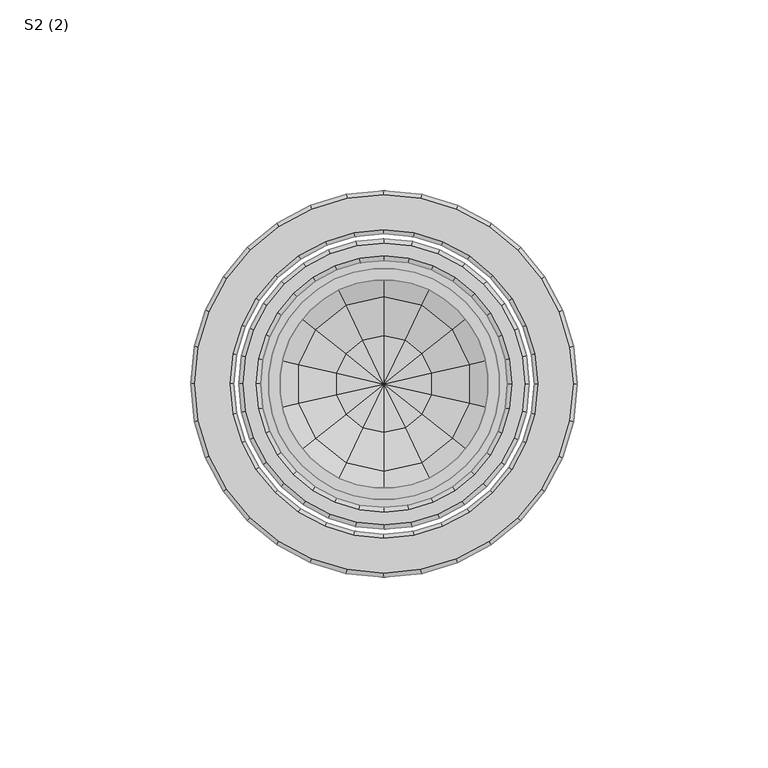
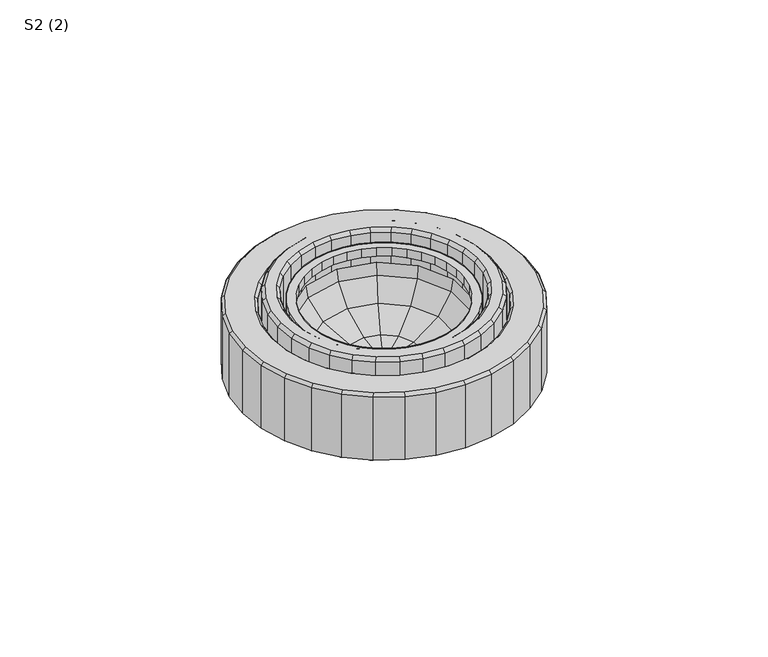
"""IFC4 building model written with IfcOpenShell, lengths in millimetres: light fixture geometry, S2 (2) : نور وابسته به سطح مخروط."""

from ifc_helpers import new_model, si_unit, origin, place, context, project, spatial, triangles, source, transform, mapped, element, save


def s2_2_4e384665(model_context):
    return source(origin(), model_context, "Body", "Tessellation", [
        triangles([(30.2889727, 2.6496484, 15.3348614), (30.2889727, -1e-07, 15.3348614), (30.2889727, -1e-07, 18.4576673), (30.2889727, 2.6496484, 18.4576673), (29.3681484, 7.868873, 15.3348614), (29.3681484, 7.868873, 18.4576673), (27.5556137, 12.8478824, 15.3348614), (27.5556137, 12.8478824, 18.4576673), (24.9023263, 17.4374519, 15.3348614), (24.9023263, 17.4374519, 18.4576673), (21.5029146, 21.4956378, 15.3348614), (21.5029146, 21.4956378, 18.4576673), (17.4410903, 24.9023263, 15.3348614), (17.4410903, 24.9023263, 18.4576673), (12.8515217, 27.551977, 15.3348614), (12.8515217, 27.551977, 18.4576673), (7.8725114, 29.36451, 15.3348614), (7.8725114, 29.36451, 18.4576673), (2.6532866, 30.2853343, 15.3348614), (2.6532866, 30.2853343, 18.4576673), (-2.6460102, 30.2853343, 15.3348614), (-2.6460102, 30.2853343, 18.4576673), (-7.8688747, 29.36451, 15.3348614), (-7.8688747, 29.36451, 18.4576673), (-12.8478841, 27.551977, 15.3348614), (-12.8478841, 27.551977, 18.4576673), (-17.4338151, 24.9023263, 15.3348614), (-17.4338151, 24.9023263, 18.4576673), (-21.4992762, 21.4956378, 15.3348614), (-21.4992762, 21.4956378, 18.4576673), (-24.8986879, 17.4374519, 15.3348614), (-24.8986879, 17.4374519, 18.4576673), (-27.5519786, 12.8478824, 15.3348614), (-27.5519786, 12.8478824, 18.4576673), (-29.3645116, 7.868873, 15.3348614), (-29.3645116, 7.868873, 18.4576673), (-30.2853359, 2.6496484, 15.3348614), (-30.2853359, 2.6496484, 18.4576673), (-30.2853359, -1e-07, 15.3348614), (-30.2853359, -1e-07, 18.4576673), (-30.2853359, -2.6496486, 15.3348614), (-30.2853359, -2.6496486, 18.4576673), (-29.3645116, -7.868873, 15.3348614), (-29.3645116, -7.868873, 18.4576673), (-27.5519786, -12.8478824, 15.3348614), (-27.5519786, -12.8478824, 18.4576673), (-24.8986879, -17.4374519, 15.3348614), (-24.8986879, -17.4374519, 18.4576673), (-21.4992762, -21.4992746, 15.3348614), (-21.4992762, -21.4992746, 18.4576673), (-17.4338151, -24.905968, 15.3348614), (-17.4338151, -24.905968, 18.4576673), (-12.8478841, -27.5556154, 15.3348614), (-12.8478841, -27.5556154, 18.4576673), (-7.8688747, -29.3681501, 15.3348614), (-7.8688747, -29.3681501, 18.4576673), (-2.6460102, -30.2853343, 15.3348614), (-2.6460102, -30.2853343, 18.4576673), (2.6532866, -30.2853343, 15.3348614), (2.6532866, -30.2853343, 18.4576673), (7.8725114, -29.3681501, 15.3348614), (7.8725114, -29.3681501, 18.4576673), (12.8515217, -27.5556154, 15.3348614), (12.8515217, -27.5556154, 18.4576673), (17.4410903, -24.905968, 15.3348614), (17.4410903, -24.905968, 18.4576673), (21.5029146, -21.4992746, 15.3348614), (21.5029146, -21.4992746, 18.4576673), (24.9023263, -17.4374519, 15.3348614), (24.9023263, -17.4374519, 18.4576673), (27.5556137, -12.8478824, 15.3348614), (27.5556137, -12.8478824, 18.4576673), (29.3681484, -7.868873, 15.3348614), (29.3681484, -7.868873, 18.4576673), (30.2889727, -2.6496486, 15.3348614), (30.2889727, -2.6496486, 18.4576673), (-27.2535263, 2.3839556, 15.3348614), (-27.2535263, -1e-07, 15.3348614), (-27.2535263, -1e-07, 18.4576673), (-27.2535263, 2.3839556, 18.4576673), (-26.4273338, 7.0827138, 15.3348614), (-26.4273338, 7.0827138, 18.4576673), (-24.7967793, 11.5630945, 15.3348614), (-24.7967793, 11.5630945, 18.4576673), (-22.4091853, 15.6940718, 15.3348614), (-22.4091853, 15.6940718, 18.4576673), (-19.3446183, 19.3482567, 15.3348614), (-19.3446183, 19.3482567, 18.4576673), (-15.6940718, 22.4128237, 15.3348614), (-15.6940718, 22.4128237, 18.4576673), (-11.5630962, 24.7967776, 15.3348614), (-11.5630962, 24.7967776, 18.4576673), (-7.0790758, 26.4273321, 15.3348614), (-7.0790758, 26.4273321, 18.4576673), (-2.383957, 27.2571663, 15.3348614), (-2.383957, 27.2571663, 18.4576673), (2.3875938, 27.2571663, 15.3348614), (2.3875938, 27.2571663, 18.4576673), (7.0863522, 26.4273321, 15.3348614), (7.0863522, 26.4273321, 18.4576673), (11.5630937, 24.7967776, 15.3348614), (11.5630937, 24.7967776, 18.4576673), (15.6977103, 22.4128237, 15.3348614), (15.6977103, 22.4128237, 18.4576673), (19.3518952, 19.3482567, 15.3348614), (19.3518952, 19.3482567, 18.4576673), (22.4164604, 15.6940718, 15.3348614), (22.4164604, 15.6940718, 18.4576673), (24.800416, 11.5630945, 15.3348614), (24.800416, 11.5630945, 18.4576673), (26.4273305, 7.0827138, 15.3348614), (26.4273305, 7.0827138, 18.4576673), (27.2608048, 2.3839556, 15.3348614), (27.2608048, 2.3839556, 18.4576673), (27.2608048, -1e-07, 15.3348614), (27.2608048, -1e-07, 18.4576673), (27.2608048, -2.3839556, 15.3348614), (27.2608048, -2.3839556, 18.4576673), (26.4273305, -7.0827138, 15.3348614), (26.4273305, -7.0827138, 18.4576673), (24.800416, -11.5630945, 15.3348614), (24.800416, -11.5630945, 18.4576673), (22.4164604, -15.6940718, 15.3348614), (22.4164604, -15.6940718, 18.4576673), (19.3518952, -19.3482567, 15.3348614), (19.3518952, -19.3482567, 18.4576673), (15.6977103, -22.4128237, 15.3348614), (15.6977103, -22.4128237, 18.4576673), (11.5630937, -24.8004177, 15.3348614), (11.5630937, -24.8004177, 18.4576673), (7.0863522, -26.4309705, 15.3348614), (7.0863522, -26.4309705, 18.4576673), (2.3875938, -27.2571663, 15.3348614), (2.3875938, -27.2571663, 18.4576673), (-2.383957, -27.2571663, 15.3348614), (-2.383957, -27.2571663, 18.4576673), (-7.0790758, -26.4309705, 15.3348614), (-7.0790758, -26.4309705, 18.4576673), (-11.5630962, -24.8004177, 15.3348614), (-11.5630962, -24.8004177, 18.4576673), (-15.6940718, -22.4128237, 15.3348614), (-15.6940718, -22.4128237, 18.4576673), (-19.3446183, -19.3482567, 15.3348614), (-19.3446183, -19.3482567, 18.4576673), (-22.4091853, -15.6940718, 15.3348614), (-22.4091853, -15.6940718, 18.4576673), (-24.7967793, -11.5630945, 15.3348614), (-24.7967793, -11.5630945, 18.4576673), (-26.4273338, -7.0827138, 15.3348614), (-26.4273338, -7.0827138, 18.4576673), (-27.2535263, -2.3839556, 15.3348614), (-27.2535263, -2.3839556, 18.4576673), (0.0036383, 38.1323743, 20.7179947), (0.0036383, 38.1323743, -8.0242621), (7.4430357, 37.400807, -8.0242621), (7.4430357, 37.400807, 20.7179947), (0.0036383, 32.3708408, -8.0242621), (0.0036383, 32.3708408, 20.7179947), (6.3183913, 31.7484656, 20.7179947), (6.3183913, 31.7484656, -8.0242621), (0.0036383, 33.6010377, 21.9445139), (0.0036383, 36.9058176, 21.9445139), (7.2028203, 36.1960907, 21.9445139), (6.5586063, 32.956822, 21.9445139), (14.5949025, 35.2315889, -8.0242621), (14.5949025, 35.2315889, 20.7179947), (12.3892886, 29.9068137, 20.7179947), (12.3892886, 29.9068137, -8.0242621), (14.1253902, 34.0960238, 21.9445139), (12.8624402, 31.0423787, 21.9445139), (21.189907, 31.7084315, -8.0242621), (21.189907, 31.7084315, 20.7179947), (17.9870341, 26.9150398, 20.7179947), (17.9870341, 26.9150398, -8.0242621), (20.5056556, 30.6856953, 21.9445139), (18.6712855, 27.937776, 21.9445139), (26.9659941, 26.9659958, -8.0242621), (26.9659941, 26.9659958, 20.7179947), (22.8932529, 22.8896128, 20.7179947), (22.8932529, 22.8896128, -8.0242621), (26.0961242, 26.0961258, 21.9445139), (23.7631229, 23.7594861, 21.9445139), (31.7084298, 21.1862669, -8.0242621), (31.7084298, 21.1862669, 20.7179947), (26.9186799, 17.9833973, 20.7179947), (26.9186799, 17.9833973, -8.0242621), (30.6856936, 20.5020188, 21.9445139), (27.9414145, 18.6676471, 21.9445139), (35.2352273, 14.5949042, -8.0242621), (35.2352273, 14.5949042, 20.7179947), (29.9104521, 12.3892903, 20.7179947), (29.9104521, 12.3892903, -8.0242621), (34.0960222, 14.1217534, 21.9445139), (31.0460172, 12.8588018, 21.9445139), (37.4044421, 7.4393973, -8.0242621), (37.4044421, 7.4393973, 20.7179947), (31.752104, 6.3147529, 20.7179947), (31.752104, 6.3147529, -8.0242621), (36.196089, 7.1991819, 21.9445139), (32.9568204, 6.5549679, 21.9445139), (38.1360061, -1e-07, -8.0242621), (38.1360061, -1e-07, 20.7179947), (32.3744792, -1e-07, 20.7179947), (32.3744792, -1e-07, -8.0242621), (36.9058192, -1e-07, 21.9445139), (33.6046761, -1e-07, 21.9445139), (37.4044421, -7.4393973, -8.0242621), (37.4044421, -7.4393973, 20.7179947), (31.752104, -6.3147529, 20.7179947), (31.752104, -6.3147529, -8.0242621), (36.196089, -7.1991819, 21.9445139), (32.9568204, -6.5549679, 21.9445139), (35.2352273, -14.5949042, -8.0242621), (35.2352273, -14.5949042, 20.7179947), (29.9104521, -12.3892903, 20.7179947), (29.9104521, -12.3892903, -8.0242621), (34.0960222, -14.1217534, 21.9445139), (31.0460172, -12.8588018, 21.9445139), (31.7084298, -21.1862669, -8.0242621), (31.7084298, -21.1862669, 20.7179947), (26.9186799, -17.9833973, 20.7179947), (26.9186799, -17.9833973, -8.0242621), (30.6856936, -20.5020188, 21.9445139), (27.9414145, -18.6676471, 21.9445139), (26.9659941, -26.9659958, -8.0242621), (26.9659941, -26.9659958, 20.7179947), (22.8932529, -22.8896128, 20.7179947), (22.8932529, -22.8896128, -8.0242621), (26.0961242, -26.0961258, 21.9445139), (23.7631229, -23.7594861, 21.9445139), (21.189907, -31.7084315, -8.0242621), (21.189907, -31.7084315, 20.7179947), (17.9870341, -26.9150398, 20.7179947), (17.9870341, -26.9150398, -8.0242621), (20.5056556, -30.6856953, 21.9445139), (18.6712855, -27.937776, 21.9445139), (14.5949025, -35.2315889, -8.0242621), (14.5949025, -35.2315889, 20.7179947), (12.3892886, -29.9068137, 20.7179947), (12.3892886, -29.9068137, -8.0242621), (14.1253902, -34.0960238, 21.9445139), (12.8624402, -31.0423787, 21.9445139), (7.4430357, -37.400807, -8.0242621), (7.4430357, -37.400807, 20.7179947), (6.3183913, -31.7484656, 20.7179947), (6.3183913, -31.7484656, -8.0242621), (7.2028203, -36.1960907, 21.9445139), (6.5586063, -32.956822, 21.9445139), (0.0036383, -38.1360078, -8.0242621), (0.0036383, -38.1360078, 20.7179947), (0.0036383, -32.3708408, 20.7179947), (0.0036383, -32.3708408, -8.0242621), (0.0036383, -36.9058176, 21.9445139), (0.0036383, -33.6010377, 21.9445139), (-7.4357589, -37.400807, -8.0242621), (-7.4357589, -37.400807, 20.7179947), (-6.3147541, -31.7484656, 20.7179947), (-6.3147541, -31.7484656, -8.0242621), (-7.1955435, -36.1960907, 21.9445139), (-6.5513303, -32.956822, 21.9445139), (-14.5912657, -35.2315889, -8.0242621), (-14.5912657, -35.2315889, 20.7179947), (-12.3856519, -29.9068137, 20.7179947), (-12.3856519, -29.9068137, -8.0242621), (-14.1217534, -34.0960238, 21.9445139), (-12.8551634, -31.0423787, 21.9445139), (-21.1826302, -31.7084315, -8.0242621), (-21.1826302, -31.7084315, 20.7179947), (-17.983399, -26.9150398, 20.7179947), (-17.983399, -26.9150398, -8.0242621), (-20.5020205, -30.6856953, 21.9445139), (-18.664007, -27.937776, 21.9445139), (-26.962359, -26.9659958, -8.0242621), (-26.962359, -26.9659958, 20.7179947), (-22.8896145, -22.8896128, 20.7179947), (-22.8896145, -22.8896128, -8.0242621), (-26.0924857, -26.0961258, 21.9445139), (-23.755846, -23.7594861, 21.9445139), (-31.7047931, -21.1862669, -8.0242621), (-31.7047931, -21.1862669, 20.7179947), (-26.9150415, -17.9833973, 20.7179947), (-26.9150415, -17.9833973, -8.0242621), (-30.6820568, -20.5020188, 21.9445139), (-27.9377777, -18.6676471, 21.9445139), (-35.2279505, -14.5949042, -8.0242621), (-35.2279505, -14.5949042, 20.7179947), (-29.9068154, -12.3892903, 20.7179947), (-29.9068154, -12.3892903, -8.0242621), (-34.0923854, -14.1217534, 21.9445139), (-31.0423804, -12.8588018, 21.9445139), (-37.4008087, -7.4393973, -8.0242621), (-37.4008087, -7.4393973, 20.7179947), (-31.7484672, -6.3147529, 20.7179947), (-31.7484672, -6.3147529, -8.0242621), (-36.1924522, -7.1991819, 21.9445139), (-32.9531836, -6.5549679, 21.9445139), (-38.132376, -1e-07, -8.0242621), (-38.132376, -1e-07, 20.7179947), (-32.3708425, -1e-07, 20.7179947), (-32.3708425, -1e-07, -8.0242621), (-36.9021792, -1e-07, 21.9445139), (-33.601036, -1e-07, 21.9445139), (-37.4008087, 7.4393973, -8.0242621), (-37.4008087, 7.4393973, 20.7179947), (-31.7484672, 6.3147529, 20.7179947), (-31.7484672, 6.3147529, -8.0242621), (-36.1924522, 7.1991819, 21.9445139), (-32.9531836, 6.5549679, 21.9445139), (-35.2279505, 14.5949042, -8.0242621), (-35.2279505, 14.5949042, 20.7179947), (-29.9068154, 12.3892903, 20.7179947), (-29.9068154, 12.3892903, -8.0242621), (-34.0923854, 14.1217534, 21.9445139), (-31.0423804, 12.8588018, 21.9445139), (-31.7047931, 21.1862669, -8.0242621), (-31.7047931, 21.1862669, 20.7179947), (-26.9150415, 17.9833973, 20.7179947), (-26.9150415, 17.9833973, -8.0242621), (-30.6820568, 20.5020188, 21.9445139), (-27.9377777, 18.6676471, 21.9445139), (-26.962359, 26.9659958, -8.0242621), (-26.962359, 26.9659958, 20.7179947), (-22.8896145, 22.8896128, 20.7179947), (-22.8896145, 22.8896128, -8.0242621), (-26.0924857, 26.0961258, 21.9445139), (-23.755846, 23.7594861, 21.9445139), (-21.1826302, 31.7084315, -8.0242621), (-21.1826302, 31.7084315, 20.7179947), (-17.983399, 26.9150398, 20.7179947), (-17.983399, 26.9150398, -8.0242621), (-20.5020205, 30.6856953, 21.9445139), (-18.664007, 27.937776, 21.9445139), (-14.5912657, 35.2315889, -8.0242621), (-14.5912657, 35.2315889, 20.7179947), (-12.3856519, 29.9068137, 20.7179947), (-12.3856519, 29.9068137, -8.0242621), (-14.1217534, 34.0960238, 21.9445139), (-12.8551634, 31.0423787, 21.9445139), (-7.4357589, 37.400807, -8.0242621), (-7.4357589, 37.400807, 20.7179947), (-6.3147541, 31.7484656, 20.7179947), (-6.3147541, 31.7484656, -8.0242621), (-7.1955435, 36.1960907, 21.9445139), (-6.5513303, 32.956822, 21.9445139), (-1.4e-06, 50.7000047, 16.2595407), (-1.4e-06, 50.7000047, -7.5), (9.8925051, 49.7282228, -7.5), (9.8925051, 49.7282228, 16.2595407), (-1.4e-06, 49.600837, -8.0242621), (-1.4e-06, 40.4035011, -8.0242621), (7.8834308, 39.6282563, -8.0242621), (9.677766, 48.6472522, -8.0242621), (-1.4e-06, 39.3407242, -6.9685173), (-1.4e-06, 39.3407242, 16.2595407), (7.6759718, 38.5873231, 16.2595407), (7.6759718, 38.5873231, -6.9685173), (-1.4e-06, 40.4035011, 17.3186176), (-1.4e-06, 49.600837, 17.3186176), (9.677766, 48.6472522, 17.3186176), (7.8834308, 39.6282563, 17.3186176), (19.4028495, 46.8419976, -7.5), (19.4028495, 46.8419976, 16.2595407), (15.4611341, 37.3280123, -8.0242621), (18.9806531, 45.8265415, -8.0242621), (15.0571363, 36.3453135, 16.2595407), (15.0571363, 36.3453135, -6.9685173), (18.9806531, 45.8265415, 17.3186176), (15.4611341, 37.3280123, 17.3186176), (28.1670688, 42.1578013, -7.5), (28.1670688, 42.1578013, 16.2595407), (22.4492177, 33.5973943, -8.0242621), (27.5556137, 41.2406138, -8.0242621), (21.8559581, 32.7129674, 16.2595407), (21.8559581, 32.7129674, -6.9685173), (27.5556137, 41.2406138, 17.3186176), (22.4492177, 33.5973943, 17.3186176), (35.8503257, 35.8503241, -7.5), (35.8503257, 35.8503241, 16.2595407), (28.5710698, 28.5710715, -8.0242621), (35.0750842, 35.0714458, -8.0242621), (27.8176654, 27.8176671, 16.2595407), (27.8176654, 27.8176671, -6.9685173), (35.0750842, 35.0714458, 17.3186176), (28.5710698, 28.5710715, 17.3186176), (42.1577997, 28.1670704, -7.5), (42.1577997, 28.1670704, 16.2595407), (33.597396, 22.4492194, -8.0242621), (41.2406122, 27.5556154, -8.0242621), (32.7129657, 21.8559597, 16.2595407), (32.7129657, 21.8559597, -6.9685173), (41.2406122, 27.5556154, 17.3186176), (33.597396, 22.4492194, 17.3186176), (46.841996, 19.4028511, -7.5), (46.841996, 19.4028511, 16.2595407), (37.3280107, 15.4611357, -8.0242621), (45.8265399, 18.9806547, -8.0242621), (36.3489519, 15.0571363, 16.2595407), (36.3489519, 15.0571363, -6.9685173), (45.8265399, 18.9806547, 17.3186176), (37.3280107, 15.4611357, 17.3186176), (49.7282212, 9.8925067, -7.5), (49.7282212, 9.8925067, 16.2595407), (39.6282547, 7.8834316, -8.0242621), (48.6472505, 9.6777676, -8.0242621), (38.5873214, 7.6759727, 16.2595407), (38.5873214, 7.6759727, -6.9685173), (48.6472505, 9.6777676, 17.3186176), (39.6282547, 7.8834316, 17.3186176), (50.7000031, -1e-07, -7.5), (50.7000031, -1e-07, 16.2595407), (40.4071395, -1e-07, -8.0242621), (49.6008354, -1e-07, -8.0242621), (39.3407258, -1e-07, 16.2595407), (39.3407258, -1e-07, -6.9685173), (49.6008354, -1e-07, 17.3186176), (40.4071395, -1e-07, 17.3186176), (49.7282212, -9.8925067, -7.5), (49.7282212, -9.8925067, 16.2595407), (39.6282547, -7.8834316, -8.0242621), (48.6472505, -9.6777676, -8.0242621), (38.5873214, -7.6759727, 16.2595407), (38.5873214, -7.6759727, -6.9685173), (48.6472505, -9.6777676, 17.3186176), (39.6282547, -7.8834316, 17.3186176), (46.841996, -19.4028511, -7.5), (46.841996, -19.4028511, 16.2595407), (37.3280107, -15.4611357, -8.0242621), (45.8265399, -18.9806547, -8.0242621), (36.3489519, -15.0571363, 16.2595407), (36.3489519, -15.0571363, -6.9685173), (45.8265399, -18.9806547, 17.3186176), (37.3280107, -15.4611357, 17.3186176), (42.1577997, -28.1670704, -7.5), (42.1577997, -28.1670704, 16.2595407), (33.597396, -22.4492194, -8.0242621), (41.2406122, -27.5556154, -8.0242621), (32.7129657, -21.8559597, 16.2595407), (32.7129657, -21.8559597, -6.9685173), (41.2406122, -27.5556154, 17.3186176), (33.597396, -22.4492194, 17.3186176), (35.8503257, -35.8503274, -7.5), (35.8503257, -35.8503274, 16.2595407), (28.5710698, -28.5710715, -8.0242621), (35.0750842, -35.0750859, -8.0242621), (27.8176654, -27.8176671, 16.2595407), (27.8176654, -27.8176671, -6.9685173), (35.0750842, -35.0750859, 17.3186176), (28.5710698, -28.5710715, 17.3186176), (28.1670688, -42.1578013, -7.5), (28.1670688, -42.1578013, 16.2595407), (22.4492177, -33.5973976, -8.0242621), (27.5556137, -41.2406138, -8.0242621), (21.8559581, -32.7129674, 16.2595407), (21.8559581, -32.7129674, -6.9685173), (27.5556137, -41.2406138, 17.3186176), (22.4492177, -33.5973976, 17.3186176), (19.4028495, -46.8419976, -7.5), (19.4028495, -46.8419976, 16.2595407), (15.4611341, -37.3316524, -8.0242621), (18.9806531, -45.8265415, -8.0242621), (15.0571363, -36.3489536, 16.2595407), (15.0571363, -36.3489536, -6.9685173), (18.9806531, -45.8265415, 17.3186176), (15.4611341, -37.3316524, 17.3186176), (9.8925051, -49.7282228, -7.5), (9.8925051, -49.7282228, 16.2595407), (7.8834308, -39.6282563, -8.0242621), (9.677766, -48.6472522, -8.0242621), (7.6759718, -38.5873231, 16.2595407), (7.6759718, -38.5873231, -6.9685173), (9.677766, -48.6472522, 17.3186176), (7.8834308, -39.6282563, 17.3186176), (-1.4e-06, -50.7000047, -7.5), (-1.4e-06, -50.7000047, 16.2595407), (-1.4e-06, -40.4071412, -8.0242621), (-1.4e-06, -49.600837, -8.0242621), (-1.4e-06, -39.3407242, 16.2595407), (-1.4e-06, -39.3407242, -6.9685173), (-1.4e-06, -49.600837, 17.3186176), (-1.4e-06, -40.4071412, 17.3186176), (-9.8925075, -49.7282228, -7.5), (-9.8925075, -49.7282228, 16.2595407), (-7.8834333, -39.6282563, -8.0242621), (-9.6777684, -48.6472522, -8.0242621), (-7.6759743, -38.5873231, 16.2595407), (-7.6759743, -38.5873231, -6.9685173), (-9.6777684, -48.6472522, 17.3186176), (-7.8834333, -39.6282563, 17.3186176), (-19.4028528, -46.8419976, -7.5), (-19.4028528, -46.8419976, 16.2595407), (-15.4611374, -37.3316524, -8.0242621), (-18.9806547, -45.8265415, -8.0242621), (-15.057138, -36.3489536, 16.2595407), (-15.057138, -36.3489536, -6.9685173), (-18.9806547, -45.8265415, 17.3186176), (-15.4611374, -37.3316524, 17.3186176), (-28.1670721, -42.1578013, -7.5), (-28.1670721, -42.1578013, 16.2595407), (-22.449221, -33.5973976, -8.0242621), (-27.555617, -41.2406138, -8.0242621), (-21.8559614, -32.7129674, 16.2595407), (-21.8559614, -32.7129674, -6.9685173), (-27.555617, -41.2406138, 17.3186176), (-22.449221, -33.5973976, 17.3186176), (-35.8503257, -35.8503274, -7.5), (-35.8503257, -35.8503274, 16.2595407), (-28.5710731, -28.5710715, -8.0242621), (-35.0750875, -35.0750859, -8.0242621), (-27.8176687, -27.8176671, 16.2595407), (-27.8176687, -27.8176671, -6.9685173), (-35.0750875, -35.0750859, 17.3186176), (-28.5710731, -28.5710715, 17.3186176), (-42.157803, -28.1670704, -7.5), (-42.157803, -28.1670704, 16.2595407), (-33.597396, -22.4492194, -8.0242621), (-41.2406155, -27.5556154, -8.0242621), (-32.712969, -21.8559597, 16.2595407), (-32.712969, -21.8559597, -6.9685173), (-41.2406155, -27.5556154, 17.3186176), (-33.597396, -22.4492194, 17.3186176), (-46.8419993, -19.4028511, -7.5), (-46.8419993, -19.4028511, 16.2595407), (-37.328014, -15.4611357, -8.0242621), (-45.8265432, -18.9806547, -8.0242621), (-36.3489552, -15.0571363, 16.2595407), (-36.3489552, -15.0571363, -6.9685173), (-45.8265432, -18.9806547, 17.3186176), (-37.328014, -15.4611357, 17.3186176), (-49.7282245, -9.8925067, -7.5), (-49.7282245, -9.8925067, 16.2595407), (-39.628258, -7.8834316, -8.0242621), (-48.6472538, -9.6777676, -8.0242621), (-38.5873247, -7.6759727, 16.2595407), (-38.5873247, -7.6759727, -6.9685173), (-48.6472538, -9.6777676, 17.3186176), (-39.628258, -7.8834316, 17.3186176), (-50.7000031, -1e-07, -7.5), (-50.7000031, -1e-07, 16.2595407), (-40.4071395, -1e-07, -8.0242621), (-49.6008387, -1e-07, -8.0242621), (-39.3407258, -1e-07, 16.2595407), (-39.3407258, -1e-07, -6.9685173), (-49.6008387, -1e-07, 17.3186176), (-40.4071395, -1e-07, 17.3186176), (-49.7282245, 9.8925067, -7.5), (-49.7282245, 9.8925067, 16.2595407), (-39.628258, 7.8834316, -8.0242621), (-48.6472538, 9.6777676, -8.0242621), (-38.5873247, 7.6759727, 16.2595407), (-38.5873247, 7.6759727, -6.9685173), (-48.6472538, 9.6777676, 17.3186176), (-39.628258, 7.8834316, 17.3186176), (-46.8419993, 19.4028511, -7.5), (-46.8419993, 19.4028511, 16.2595407), (-37.328014, 15.4611357, -8.0242621), (-45.8265432, 18.9806547, -8.0242621), (-36.3489552, 15.0571363, 16.2595407), (-36.3489552, 15.0571363, -6.9685173), (-45.8265432, 18.9806547, 17.3186176), (-37.328014, 15.4611357, 17.3186176), (-42.157803, 28.1670704, -7.5), (-42.157803, 28.1670704, 16.2595407), (-33.597396, 22.4492194, -8.0242621), (-41.2406155, 27.5556154, -8.0242621), (-32.712969, 21.8559597, 16.2595407), (-32.712969, 21.8559597, -6.9685173), (-41.2406155, 27.5556154, 17.3186176), (-33.597396, 22.4492194, 17.3186176), (-35.8503257, 35.8503241, -7.5), (-35.8503257, 35.8503241, 16.2595407), (-28.5710731, 28.5710715, -8.0242621), (-35.0750875, 35.0714458, -8.0242621), (-27.8176687, 27.8176671, 16.2595407), (-27.8176687, 27.8176671, -6.9685173), (-35.0750875, 35.0714458, 17.3186176), (-28.5710731, 28.5710715, 17.3186176), (-28.1670721, 42.1578013, -7.5), (-28.1670721, 42.1578013, 16.2595407), (-22.449221, 33.5973943, -8.0242621), (-27.555617, 41.2406138, -8.0242621), (-21.8559614, 32.7129674, 16.2595407), (-21.8559614, 32.7129674, -6.9685173), (-27.555617, 41.2406138, 17.3186176), (-22.449221, 33.5973943, 17.3186176), (-19.4028528, 46.8419976, -7.5), (-19.4028528, 46.8419976, 16.2595407), (-15.4611374, 37.3280123, -8.0242621), (-18.9806547, 45.8265415, -8.0242621), (-15.057138, 36.3453135, 16.2595407), (-15.057138, 36.3453135, -6.9685173), (-18.9806547, 45.8265415, 17.3186176), (-15.4611374, 37.3280123, 17.3186176), (-9.8925075, 49.7282228, -7.5), (-9.8925075, 49.7282228, 16.2595407), (-7.8834333, 39.6282563, -8.0242621), (-9.6777684, 48.6472522, -8.0242621), (-7.6759743, 38.5873231, 16.2595407), (-7.6759743, 38.5873231, -6.9685173), (-9.6777684, 48.6472522, 17.3186176), (-7.8834333, 39.6282563, 17.3186176)], [[1, 3, 2], [1, 4, 3], [5, 4, 1], [5, 6, 4], [7, 6, 5], [7, 8, 6], [9, 8, 7], [9, 10, 8], [11, 10, 9], [11, 12, 10], [13, 12, 11], [13, 14, 12], [15, 14, 13], [15, 16, 14], [17, 16, 15], [17, 18, 16], [19, 18, 17], [19, 20, 18], [21, 20, 19], [21, 22, 20], [23, 22, 21], [23, 24, 22], [25, 24, 23], [25, 26, 24], [27, 26, 25], [27, 28, 26], [29, 28, 27], [29, 30, 28], [31, 30, 29], [31, 32, 30], [33, 32, 31], [33, 34, 32], [35, 34, 33], [35, 36, 34], [37, 36, 35], [37, 38, 36], [39, 38, 37], [39, 40, 38], [41, 40, 39], [41, 42, 40], [43, 42, 41], [43, 44, 42], [45, 44, 43], [45, 46, 44], [47, 46, 45], [47, 48, 46], [49, 48, 47], [49, 50, 48], [51, 50, 49], [51, 52, 50], [53, 52, 51], [53, 54, 52], [55, 54, 53], [55, 56, 54], [57, 56, 55], [57, 58, 56], [59, 58, 57], [59, 60, 58], [61, 60, 59], [61, 62, 60], [63, 62, 61], [63, 64, 62], [65, 64, 63], [65, 66, 64], [67, 66, 65], [67, 68, 66], [69, 68, 67], [69, 70, 68], [71, 70, 69], [71, 72, 70], [73, 72, 71], [73, 74, 72], [75, 74, 73], [75, 76, 74], [2, 76, 75], [2, 3, 76], [77, 79, 78], [77, 80, 79], [81, 80, 77], [81, 82, 80], [83, 82, 81], [83, 84, 82], [85, 84, 83], [85, 86, 84], [87, 86, 85], [87, 88, 86], [89, 88, 87], [89, 90, 88], [91, 90, 89], [91, 92, 90], [93, 92, 91], [93, 94, 92], [95, 94, 93], [95, 96, 94], [97, 96, 95], [97, 98, 96], [99, 98, 97], [99, 100, 98], [101, 100, 99], [101, 102, 100], [103, 102, 101], [103, 104, 102], [105, 104, 103], [105, 106, 104], [107, 106, 105], [107, 108, 106], [109, 108, 107], [109, 110, 108], [111, 110, 109], [111, 112, 110], [113, 112, 111], [113, 114, 112], [115, 114, 113], [115, 116, 114], [117, 116, 115], [117, 118, 116], [119, 118, 117], [119, 120, 118], [121, 120, 119], [121, 122, 120], [123, 122, 121], [123, 124, 122], [125, 124, 123], [125, 126, 124], [127, 126, 125], [127, 128, 126], [129, 128, 127], [129, 130, 128], [131, 130, 129], [131, 132, 130], [133, 132, 131], [133, 134, 132], [135, 134, 133], [135, 136, 134], [137, 136, 135], [137, 138, 136], [139, 138, 137], [139, 140, 138], [141, 140, 139], [141, 142, 140], [143, 142, 141], [143, 144, 142], [145, 144, 143], [145, 146, 144], [147, 146, 145], [147, 148, 146], [149, 148, 147], [149, 150, 148], [151, 150, 149], [151, 152, 150], [78, 152, 151], [78, 79, 152], [6, 76, 4], [6, 74, 76], [8, 74, 6], [8, 72, 74], [114, 8, 10], [114, 72, 8], [118, 72, 114], [118, 70, 72], [120, 70, 118], [120, 122, 70], [122, 124, 70], [70, 124, 68], [126, 68, 124], [126, 66, 68], [128, 66, 126], [128, 64, 66], [130, 64, 128], [130, 62, 64], [132, 62, 130], [132, 60, 62], [134, 60, 132], [134, 58, 60], [136, 58, 134], [136, 138, 58], [138, 56, 58], [138, 140, 56], [140, 54, 56], [140, 142, 54], [142, 52, 54], [142, 144, 52], [144, 50, 52], [144, 146, 50], [146, 48, 50], [146, 148, 48], [150, 46, 148], [148, 46, 48], [152, 46, 150], [152, 34, 46], [44, 38, 42], [44, 36, 38], [46, 36, 44], [46, 34, 36], [80, 34, 152], [80, 82, 34], [10, 112, 114], [10, 110, 112], [12, 108, 10], [10, 108, 110], [12, 106, 108], [12, 14, 106], [14, 104, 106], [14, 16, 104], [16, 102, 104], [16, 18, 102], [18, 100, 102], [18, 20, 100], [20, 98, 100], [20, 22, 98], [22, 96, 98], [22, 94, 96], [24, 94, 22], [24, 92, 94], [26, 92, 24], [26, 90, 92], [28, 90, 26], [28, 88, 90], [30, 88, 28], [30, 86, 88], [32, 86, 30], [32, 84, 86], [32, 34, 84], [84, 34, 82], [73, 1, 75], [73, 5, 1], [71, 5, 73], [71, 7, 5], [117, 71, 69], [117, 7, 71], [113, 7, 117], [113, 9, 7], [111, 9, 113], [111, 109, 9], [109, 107, 9], [9, 107, 11], [105, 11, 107], [105, 13, 11], [103, 13, 105], [103, 15, 13], [101, 15, 103], [101, 17, 15], [99, 17, 101], [99, 19, 17], [97, 19, 99], [97, 21, 19], [95, 21, 97], [95, 93, 21], [93, 23, 21], [93, 91, 23], [91, 25, 23], [91, 89, 25], [89, 27, 25], [89, 87, 27], [87, 29, 27], [87, 85, 29], [85, 31, 29], [85, 83, 31], [81, 33, 83], [83, 33, 31], [77, 33, 81], [77, 45, 33], [35, 41, 37], [35, 43, 41], [33, 43, 35], [33, 45, 43], [151, 45, 77], [151, 149, 45], [69, 119, 117], [69, 121, 119], [67, 123, 69], [69, 123, 121], [67, 125, 123], [67, 65, 125], [65, 127, 125], [65, 63, 127], [63, 129, 127], [63, 61, 129], [61, 131, 129], [61, 59, 131], [59, 133, 131], [59, 57, 133], [57, 135, 133], [57, 137, 135], [55, 137, 57], [55, 139, 137], [53, 139, 55], [53, 141, 139], [51, 141, 53], [51, 143, 141], [49, 143, 51], [49, 145, 143], [47, 145, 49], [47, 147, 145], [47, 45, 147], [147, 45, 149], [153, 155, 154], [153, 156, 155], [157, 159, 158], [157, 160, 159], [161, 163, 162], [161, 164, 163], [156, 165, 155], [156, 166, 165], [160, 167, 159], [160, 168, 167], [164, 169, 163], [164, 170, 169], [166, 171, 165], [166, 172, 171], [168, 173, 167], [168, 174, 173], [170, 175, 169], [170, 176, 175], [172, 177, 171], [172, 178, 177], [174, 179, 173], [174, 180, 179], [176, 181, 175], [176, 182, 181], [178, 183, 177], [178, 184, 183], [180, 185, 179], [180, 186, 185], [182, 187, 181], [182, 188, 187], [184, 189, 183], [184, 190, 189], [186, 191, 185], [186, 192, 191], [188, 193, 187], [188, 194, 193], [190, 195, 189], [190, 196, 195], [192, 197, 191], [192, 198, 197], [194, 199, 193], [194, 200, 199], [196, 201, 195], [196, 202, 201], [198, 203, 197], [198, 204, 203], [200, 205, 199], [200, 206, 205], [202, 207, 201], [202, 208, 207], [204, 209, 203], [204, 210, 209], [206, 211, 205], [206, 212, 211], [208, 213, 207], [208, 214, 213], [210, 215, 209], [210, 216, 215], [212, 217, 211], [212, 218, 217], [214, 219, 213], [214, 220, 219], [216, 221, 215], [216, 222, 221], [218, 223, 217], [218, 224, 223], [220, 225, 219], [220, 226, 225], [222, 227, 221], [222, 228, 227], [224, 229, 223], [224, 230, 229], [226, 231, 225], [226, 232, 231], [228, 233, 227], [228, 234, 233], [230, 235, 229], [230, 236, 235], [232, 237, 231], [232, 238, 237], [234, 239, 233], [234, 240, 239], [236, 241, 235], [236, 242, 241], [238, 243, 237], [238, 244, 243], [240, 245, 239], [240, 246, 245], [242, 247, 241], [242, 248, 247], [244, 249, 243], [244, 250, 249], [246, 251, 245], [246, 252, 251], [248, 253, 247], [248, 254, 253], [250, 255, 249], [250, 256, 255], [252, 257, 251], [252, 258, 257], [254, 259, 253], [254, 260, 259], [256, 261, 255], [256, 262, 261], [258, 263, 257], [258, 264, 263], [260, 265, 259], [260, 266, 265], [262, 267, 261], [262, 268, 267], [264, 269, 263], [264, 270, 269], [266, 271, 265], [266, 272, 271], [268, 273, 267], [268, 274, 273], [270, 275, 269], [270, 276, 275], [272, 277, 271], [272, 278, 277], [274, 279, 273], [274, 280, 279], [276, 281, 275], [276, 282, 281], [278, 283, 277], [278, 284, 283], [280, 285, 279], [280, 286, 285], [282, 287, 281], [282, 288, 287], [284, 289, 283], [284, 290, 289], [286, 291, 285], [286, 292, 291], [288, 293, 287], [288, 294, 293], [290, 295, 289], [290, 296, 295], [292, 297, 291], [292, 298, 297], [294, 299, 293], [294, 300, 299], [296, 301, 295], [296, 302, 301], [298, 303, 297], [298, 304, 303], [300, 305, 299], [300, 306, 305], [302, 307, 301], [302, 308, 307], [304, 309, 303], [304, 310, 309], [306, 311, 305], [306, 312, 311], [308, 313, 307], [308, 314, 313], [310, 315, 309], [310, 316, 315], [312, 317, 311], [312, 318, 317], [314, 319, 313], [314, 320, 319], [316, 321, 315], [316, 322, 321], [318, 323, 317], [318, 324, 323], [320, 325, 319], [320, 326, 325], [322, 327, 321], [322, 328, 327], [324, 329, 323], [324, 330, 329], [326, 331, 325], [326, 332, 331], [328, 333, 327], [328, 334, 333], [330, 335, 329], [330, 336, 335], [332, 337, 331], [332, 338, 337], [334, 339, 333], [334, 340, 339], [336, 341, 335], [336, 342, 341], [338, 343, 337], [338, 344, 343], [340, 154, 339], [340, 153, 154], [342, 158, 341], [342, 157, 158], [344, 162, 343], [344, 161, 162], [168, 157, 174], [174, 157, 180], [180, 192, 186], [180, 204, 192], [192, 204, 198], [204, 216, 210], [204, 228, 216], [216, 228, 222], [228, 240, 234], [228, 252, 240], [240, 252, 246], [204, 252, 228], [204, 157, 252], [252, 264, 258], [252, 276, 264], [264, 276, 270], [276, 288, 282], [276, 300, 288], [288, 300, 294], [252, 300, 276], [252, 157, 300], [300, 312, 306], [300, 324, 312], [312, 324, 318], [324, 336, 330], [324, 157, 336], [336, 157, 342], [300, 157, 324], [180, 157, 204], [160, 157, 168], [339, 155, 333], [333, 155, 327], [327, 315, 321], [327, 303, 315], [315, 303, 309], [303, 291, 297], [303, 279, 291], [291, 279, 285], [279, 267, 273], [279, 255, 267], [267, 255, 261], [303, 255, 279], [303, 155, 255], [255, 243, 249], [255, 231, 243], [243, 231, 237], [231, 219, 225], [231, 207, 219], [219, 207, 213], [255, 207, 231], [255, 155, 207], [207, 195, 201], [207, 183, 195], [195, 183, 189], [183, 171, 177], [183, 155, 171], [171, 155, 165], [207, 155, 183], [327, 155, 303], [154, 155, 339], [345, 347, 346], [345, 348, 347], [349, 351, 350], [349, 352, 351], [353, 355, 354], [353, 356, 355], [357, 359, 358], [357, 360, 359], [348, 361, 347], [348, 362, 361], [352, 363, 351], [352, 364, 363], [356, 365, 355], [356, 366, 365], [360, 367, 359], [360, 368, 367], [362, 369, 361], [362, 370, 369], [364, 371, 363], [364, 372, 371], [366, 373, 365], [366, 374, 373], [368, 375, 367], [368, 376, 375], [370, 377, 369], [370, 378, 377], [372, 379, 371], [372, 380, 379], [374, 381, 373], [374, 382, 381], [376, 383, 375], [376, 384, 383], [378, 385, 377], [378, 386, 385], [380, 387, 379], [380, 388, 387], [382, 389, 381], [382, 390, 389], [384, 391, 383], [384, 392, 391], [386, 393, 385], [386, 394, 393], [388, 395, 387], [388, 396, 395], [390, 397, 389], [390, 398, 397], [392, 399, 391], [392, 400, 399], [394, 401, 393], [394, 402, 401], [396, 403, 395], [396, 404, 403], [398, 405, 397], [398, 406, 405], [400, 407, 399], [400, 408, 407], [402, 409, 401], [402, 410, 409], [404, 411, 403], [404, 412, 411], [406, 413, 405], [406, 414, 413], [408, 415, 407], [408, 416, 415], [410, 417, 409], [410, 418, 417], [412, 419, 411], [412, 420, 419], [414, 421, 413], [414, 422, 421], [416, 423, 415], [416, 424, 423], [418, 425, 417], [418, 426, 425], [420, 427, 419], [420, 428, 427], [422, 429, 421], [422, 430, 429], [424, 431, 423], [424, 432, 431], [426, 433, 425], [426, 434, 433], [428, 435, 427], [428, 436, 435], [430, 437, 429], [430, 438, 437], [432, 439, 431], [432, 440, 439], [434, 441, 433], [434, 442, 441], [436, 443, 435], [436, 444, 443], [438, 445, 437], [438, 446, 445], [440, 447, 439], [440, 448, 447], [442, 449, 441], [442, 450, 449], [444, 451, 443], [444, 452, 451], [446, 453, 445], [446, 454, 453], [448, 455, 447], [448, 456, 455], [450, 457, 449], [450, 458, 457], [452, 459, 451], [452, 460, 459], [454, 461, 453], [454, 462, 461], [456, 463, 455], [456, 464, 463], [458, 465, 457], [458, 466, 465], [460, 467, 459], [460, 468, 467], [462, 469, 461], [462, 470, 469], [464, 471, 463], [464, 472, 471], [466, 473, 465], [466, 474, 473], [468, 475, 467], [468, 476, 475], [470, 477, 469], [470, 478, 477], [472, 479, 471], [472, 480, 479], [474, 481, 473], [474, 482, 481], [476, 483, 475], [476, 484, 483], [478, 485, 477], [478, 486, 485], [480, 487, 479], [480, 488, 487], [482, 489, 481], [482, 490, 489], [484, 491, 483], [484, 492, 491], [486, 493, 485], [486, 494, 493], [488, 495, 487], [488, 496, 495], [490, 497, 489], [490, 498, 497], [492, 499, 491], [492, 500, 499], [494, 501, 493], [494, 502, 501], [496, 503, 495], [496, 504, 503], [498, 505, 497], [498, 506, 505], [500, 507, 499], [500, 508, 507], [502, 509, 501], [502, 510, 509], [504, 511, 503], [504, 512, 511], [506, 513, 505], [506, 514, 513], [508, 515, 507], [508, 516, 515], [510, 517, 509], [510, 518, 517], [512, 519, 511], [512, 520, 519], [514, 521, 513], [514, 522, 521], [516, 523, 515], [516, 524, 523], [518, 525, 517], [518, 526, 525], [520, 527, 519], [520, 528, 527], [522, 529, 521], [522, 530, 529], [524, 531, 523], [524, 532, 531], [526, 533, 525], [526, 534, 533], [528, 535, 527], [528, 536, 535], [530, 537, 529], [530, 538, 537], [532, 539, 531], [532, 540, 539], [534, 541, 533], [534, 542, 541], [536, 543, 535], [536, 544, 543], [538, 545, 537], [538, 546, 545], [540, 547, 539], [540, 548, 547], [542, 549, 541], [542, 550, 549], [544, 551, 543], [544, 552, 551], [546, 553, 545], [546, 554, 553], [548, 555, 547], [548, 556, 555], [550, 557, 549], [550, 558, 557], [552, 559, 551], [552, 560, 559], [554, 561, 553], [554, 562, 561], [556, 563, 555], [556, 564, 563], [558, 565, 557], [558, 566, 565], [560, 567, 559], [560, 568, 567], [562, 569, 561], [562, 570, 569], [564, 571, 563], [564, 572, 571], [566, 573, 565], [566, 574, 573], [568, 575, 567], [568, 576, 575], [570, 577, 569], [570, 578, 577], [572, 579, 571], [572, 580, 579], [574, 581, 573], [574, 582, 581], [576, 583, 575], [576, 584, 583], [578, 585, 577], [578, 586, 585], [580, 587, 579], [580, 588, 587], [582, 589, 581], [582, 590, 589], [584, 591, 583], [584, 592, 591], [586, 593, 585], [586, 594, 593], [588, 595, 587], [588, 596, 595], [590, 597, 589], [590, 598, 597], [592, 599, 591], [592, 600, 599], [594, 346, 593], [594, 345, 346], [596, 350, 595], [596, 349, 350], [598, 354, 597], [598, 353, 354], [600, 358, 599], [600, 357, 358], [348, 358, 359], [348, 345, 358], [346, 352, 349], [346, 347, 352], [350, 356, 353], [350, 351, 356], [354, 360, 357], [354, 355, 360], [362, 359, 367], [362, 348, 359], [347, 364, 352], [347, 361, 364], [351, 366, 356], [351, 363, 366], [355, 368, 360], [355, 365, 368], [370, 367, 375], [370, 362, 367], [361, 372, 364], [361, 369, 372], [363, 374, 366], [363, 371, 374], [365, 376, 368], [365, 373, 376], [378, 375, 383], [378, 370, 375], [369, 380, 372], [369, 377, 380], [371, 382, 374], [371, 379, 382], [373, 384, 376], [373, 381, 384], [386, 383, 391], [386, 378, 383], [377, 388, 380], [377, 385, 388], [379, 390, 382], [379, 387, 390], [381, 392, 384], [381, 389, 392], [394, 391, 399], [394, 386, 391], [385, 396, 388], [385, 393, 396], [387, 398, 390], [387, 395, 398], [389, 400, 392], [389, 397, 400], [402, 399, 407], [402, 394, 399], [393, 404, 396], [393, 401, 404], [395, 406, 398], [395, 403, 406], [397, 408, 400], [397, 405, 408], [410, 407, 415], [410, 402, 407], [401, 412, 404], [401, 409, 412], [403, 414, 406], [403, 411, 414], [405, 416, 408], [405, 413, 416], [418, 415, 423], [418, 410, 415], [409, 420, 412], [409, 417, 420], [411, 422, 414], [411, 419, 422], [413, 424, 416], [413, 421, 424], [426, 423, 431], [426, 418, 423], [417, 428, 420], [417, 425, 428], [419, 430, 422], [419, 427, 430], [421, 432, 424], [421, 429, 432], [434, 431, 439], [434, 426, 431], [425, 436, 428], [425, 433, 436], [427, 438, 430], [427, 435, 438], [429, 440, 432], [429, 437, 440], [442, 439, 447], [442, 434, 439], [433, 444, 436], [433, 441, 444], [435, 446, 438], [435, 443, 446], [437, 448, 440], [437, 445, 448], [450, 447, 455], [450, 442, 447], [441, 452, 444], [441, 449, 452], [443, 454, 446], [443, 451, 454], [445, 456, 448], [445, 453, 456], [458, 455, 463], [458, 450, 455], [449, 460, 452], [449, 457, 460], [451, 462, 454], [451, 459, 462], [453, 464, 456], [453, 461, 464], [466, 463, 471], [466, 458, 463], [457, 468, 460], [457, 465, 468], [459, 470, 462], [459, 467, 470], [461, 472, 464], [461, 469, 472], [474, 471, 479], [474, 466, 471], [465, 476, 468], [465, 473, 476], [467, 478, 470], [467, 475, 478], [469, 480, 472], [469, 477, 480], [482, 479, 487], [482, 474, 479], [473, 484, 476], [473, 481, 484], [475, 486, 478], [475, 483, 486], [477, 488, 480], [477, 485, 488], [490, 487, 495], [490, 482, 487], [481, 492, 484], [481, 489, 492], [483, 494, 486], [483, 491, 494], [485, 496, 488], [485, 493, 496], [498, 495, 503], [498, 490, 495], [489, 500, 492], [489, 497, 500], [491, 502, 494], [491, 499, 502], [493, 504, 496], [493, 501, 504], [506, 503, 511], [506, 498, 503], [497, 508, 500], [497, 505, 508], [499, 510, 502], [499, 507, 510], [501, 512, 504], [501, 509, 512], [514, 511, 519], [514, 506, 511], [505, 516, 508], [505, 513, 516], [507, 518, 510], [507, 515, 518], [509, 520, 512], [509, 517, 520], [522, 519, 527], [522, 514, 519], [513, 524, 516], [513, 521, 524], [515, 526, 518], [515, 523, 526], [517, 528, 520], [517, 525, 528], [530, 527, 535], [530, 522, 527], [521, 532, 524], [521, 529, 532], [523, 534, 526], [523, 531, 534], [525, 536, 528], [525, 533, 536], [538, 535, 543], [538, 530, 535], [529, 540, 532], [529, 537, 540], [531, 542, 534], [531, 539, 542], [533, 544, 536], [533, 541, 544], [546, 543, 551], [546, 538, 543], [537, 548, 540], [537, 545, 548], [539, 550, 542], [539, 547, 550], [541, 552, 544], [541, 549, 552], [554, 551, 559], [554, 546, 551], [545, 556, 548], [545, 553, 556], [547, 558, 550], [547, 555, 558], [549, 560, 552], [549, 557, 560], [562, 559, 567], [562, 554, 559], [553, 564, 556], [553, 561, 564], [555, 566, 558], [555, 563, 566], [557, 568, 560], [557, 565, 568], [570, 567, 575], [570, 562, 567], [561, 572, 564], [561, 569, 572], [563, 574, 566], [563, 571, 574], [565, 576, 568], [565, 573, 576], [578, 575, 583], [578, 570, 575], [569, 580, 572], [569, 577, 580], [571, 582, 574], [571, 579, 582], [573, 584, 576], [573, 581, 584], [586, 583, 591], [586, 578, 583], [577, 588, 580], [577, 585, 588], [579, 590, 582], [579, 587, 590], [581, 592, 584], [581, 589, 592], [594, 591, 599], [594, 586, 591], [585, 596, 588], [585, 593, 596], [587, 598, 590], [587, 595, 598], [589, 600, 592], [589, 597, 600], [345, 599, 358], [345, 594, 599], [593, 349, 596], [593, 346, 349], [595, 353, 598], [595, 350, 353], [597, 357, 600], [597, 354, 357], [156, 162, 163], [156, 153, 162], [158, 164, 161], [158, 159, 164], [166, 163, 169], [166, 156, 163], [159, 170, 164], [159, 167, 170], [172, 169, 175], [172, 166, 169], [167, 176, 170], [167, 173, 176], [178, 175, 181], [178, 172, 175], [173, 182, 176], [173, 179, 182], [184, 181, 187], [184, 178, 181], [179, 188, 182], [179, 185, 188], [190, 187, 193], [190, 184, 187], [185, 194, 188], [185, 191, 194], [196, 193, 199], [196, 190, 193], [191, 200, 194], [191, 197, 200], [202, 199, 205], [202, 196, 199], [197, 206, 200], [197, 203, 206], [208, 205, 211], [208, 202, 205], [203, 212, 206], [203, 209, 212], [214, 211, 217], [214, 208, 211], [209, 218, 212], [209, 215, 218], [220, 217, 223], [220, 214, 217], [215, 224, 218], [215, 221, 224], [226, 223, 229], [226, 220, 223], [221, 230, 224], [221, 227, 230], [232, 229, 235], [232, 226, 229], [227, 236, 230], [227, 233, 236], [238, 235, 241], [238, 232, 235], [233, 242, 236], [233, 239, 242], [244, 241, 247], [244, 238, 241], [239, 248, 242], [239, 245, 248], [250, 247, 253], [250, 244, 247], [245, 254, 248], [245, 251, 254], [256, 253, 259], [256, 250, 253], [251, 260, 254], [251, 257, 260], [262, 259, 265], [262, 256, 259], [257, 266, 260], [257, 263, 266], [268, 265, 271], [268, 262, 265], [263, 272, 266], [263, 269, 272], [274, 271, 277], [274, 268, 271], [269, 278, 272], [269, 275, 278], [280, 277, 283], [280, 274, 277], [275, 284, 278], [275, 281, 284], [286, 283, 289], [286, 280, 283], [281, 290, 284], [281, 287, 290], [292, 289, 295], [292, 286, 289], [287, 296, 290], [287, 293, 296], [298, 295, 301], [298, 292, 295], [293, 302, 296], [293, 299, 302], [304, 301, 307], [304, 298, 301], [299, 308, 302], [299, 305, 308], [310, 307, 313], [310, 304, 307], [305, 314, 308], [305, 311, 314], [316, 313, 319], [316, 310, 313], [311, 320, 314], [311, 317, 320], [322, 319, 325], [322, 316, 319], [317, 326, 320], [317, 323, 326], [328, 325, 331], [328, 322, 325], [323, 332, 326], [323, 329, 332], [334, 331, 337], [334, 328, 331], [329, 338, 332], [329, 335, 338], [340, 337, 343], [340, 334, 337], [335, 344, 338], [335, 341, 344], [153, 343, 162], [153, 340, 343], [341, 161, 344], [341, 158, 161]], closed=False),
        triangles([(-1.4e-06, -1e-07, -5.9349865), (-5.5103966, 11.4429864, -4.2533471), (-1.4e-06, 12.702298, -4.2533471), (-9.9289032, 7.9198282, -4.2533471), (-12.3820127, 2.8279899, -4.2533471), (-12.3820127, -2.8279901, -4.2533471), (-9.9289032, -7.9198282, -4.2533471), (-5.5103966, -11.4429864, -4.2533471), (-1.4e-06, -12.702298, -4.2533471), (5.5103937, -11.4429864, -4.2533471), (9.93254, -7.9198282, -4.2533471), (12.3856486, -2.8279901, -4.2533471), (12.3856486, 2.8279899, -4.2533471), (9.93254, 7.9198282, -4.2533471), (5.5103937, 11.4429864, -4.2533471), (-9.9289032, 20.6221278, 0.4561313), (-1.4e-06, 22.8896128, 0.4561313), (-17.8924072, 14.270978, 0.4561313), (-22.3145535, 5.0918378, 0.4561313), (-22.3145535, -5.0918382, 0.4561313), (-17.8924072, -14.270978, 0.4561313), (-9.9289032, -20.6221278, 0.4561313), (-1.4e-06, -22.8896128, 0.4561313), (9.93254, -20.6221278, 0.4561313), (17.896044, -14.270978, 0.4561313), (22.3145518, -5.0918382, 0.4561313), (22.3145518, 5.0918378, 0.4561313), (17.896044, 14.270978, 0.4561313), (9.93254, 20.6221278, 0.4561313), (-12.3820127, 25.7139635, 7.2623819), (-1.4e-06, 28.5419543, 7.2623819), (-22.3145535, 17.7941354, 7.2623819), (-27.8249505, 6.351149, 7.2623819), (-27.8249505, -6.351149, 7.2623819), (-22.3145535, -17.794137, 7.2623819), (-12.3820127, -25.7139635, 7.2623819), (-1.4e-06, -28.5419543, 7.2623819), (12.3856486, -25.7139635, 7.2623819), (22.3145518, -17.794137, 7.2623819), (27.8249489, -6.351149, 7.2623819), (27.8249489, 6.351149, 7.2623819), (22.3145518, 17.7941354, 7.2623819), (12.3856486, 25.7139635, 7.2623819), (-12.6950203, 26.3618192, 11.5753311), (-1.4e-06, 29.2589613, 11.5753311), (-22.8750559, 18.2418106, 11.5753311), (-28.527399, 6.5112925, 11.5753311), (-28.527399, -6.5112929, 11.5753311), (-22.8750559, -18.245449, 11.5753311), (-12.6950203, -26.3618192, 11.5753311), (-1.4e-06, -29.2589613, 11.5753311), (12.6950178, -26.3618192, 11.5753311), (22.8786943, -18.245449, 11.5753311), (28.5273956, -6.5112929, 11.5753311), (28.5273956, 6.5112925, 11.5753311), (22.8786943, 18.2418106, 11.5753311), (12.6950178, 26.3618192, 11.5753311)], [[1, 3, 2], [1, 2, 4], [1, 4, 5], [1, 5, 6], [1, 6, 7], [1, 7, 8], [1, 8, 9], [1, 9, 10], [1, 10, 11], [1, 11, 12], [1, 12, 13], [1, 13, 14], [1, 14, 15], [1, 15, 3], [16, 3, 17], [16, 2, 3], [18, 2, 16], [18, 4, 2], [19, 4, 18], [19, 5, 4], [20, 5, 19], [20, 6, 5], [21, 6, 20], [21, 7, 6], [22, 7, 21], [22, 8, 7], [23, 8, 22], [23, 9, 8], [24, 9, 23], [24, 10, 9], [25, 10, 24], [25, 11, 10], [26, 11, 25], [26, 12, 11], [27, 12, 26], [27, 13, 12], [28, 13, 27], [28, 14, 13], [29, 14, 28], [29, 15, 14], [17, 15, 29], [17, 3, 15], [30, 17, 31], [30, 16, 17], [32, 16, 30], [32, 18, 16], [33, 18, 32], [33, 19, 18], [34, 19, 33], [34, 20, 19], [35, 20, 34], [35, 21, 20], [36, 21, 35], [36, 22, 21], [37, 22, 36], [37, 23, 22], [38, 23, 37], [38, 24, 23], [39, 24, 38], [39, 25, 24], [40, 25, 39], [40, 26, 25], [41, 26, 40], [41, 27, 26], [42, 27, 41], [42, 28, 27], [43, 28, 42], [43, 29, 28], [31, 29, 43], [31, 17, 29], [44, 30, 45], [45, 30, 31], [46, 32, 44], [44, 32, 30], [47, 33, 46], [46, 33, 32], [48, 34, 47], [47, 34, 33], [49, 35, 48], [48, 35, 34], [50, 36, 49], [49, 36, 35], [51, 37, 50], [50, 37, 36], [52, 38, 51], [51, 38, 37], [53, 39, 52], [52, 39, 38], [54, 40, 53], [53, 40, 39], [55, 41, 54], [54, 41, 40], [56, 42, 55], [55, 42, 41], [57, 43, 56], [56, 43, 42], [45, 31, 57], [57, 31, 43]], closed=False),
    ])


if __name__ == "__main__":
    model = new_model("IFC4")
    model_context = context("Model", 3, world=origin())
    ifc_project = project(units=[si_unit("LENGTHUNIT", "METRE", prefix="MILLI")], contexts=[model_context])
    site = spatial("IfcSite", under=ifc_project)
    building = spatial("IfcBuilding", under=site)
    placement = place(None, origin())
    s2_2_shape = s2_2_4e384665(model_context)
    element("IfcLightFixture", 1, ObjectType="S2 (2) : نور وابسته به سطح مخروط", at=placement, inside=building, context=model_context, shape_type="MappedRepresentation", body=[
        mapped(s2_2_shape, transform((0.0, 0.0, 0.0), x_axis=(1.0, 0.0, 0.0), y_axis=(0.0, 1.0, 0.0), z_axis=(0.0, 0.0, 1.0))),
    ])
    save(model, "model.ifc")
